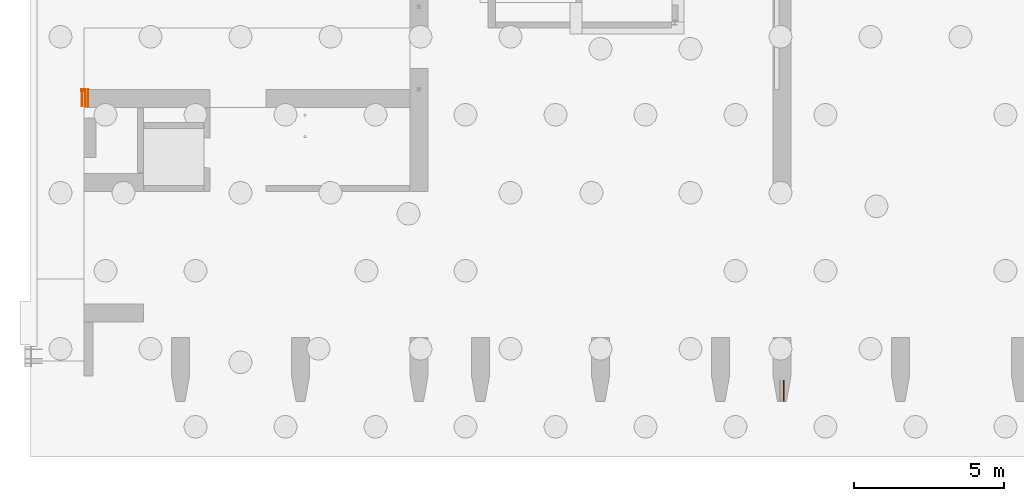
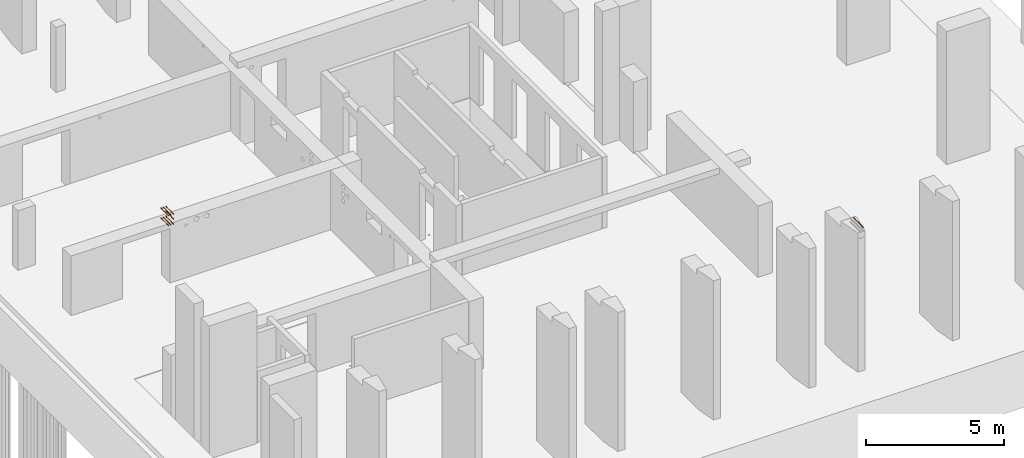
# One storey, part 23 of 26: 8 proxies.
"""IFC2X3 building model written with IfcOpenShell, lengths in millimetres."""

from ifc_helpers import new_model, entity, si_unit, converted_unit, derived_unit, direction, frame, frame_2d, origin, place, context, subcontext, project, spatial, circle, extrude, faceted_brep, source, transform, mapped, type_object, type_shapes, element, save


model = new_model("IFC2X3")

# Units and contexts
model_context = context("Model", 3, precision=0.01, world=origin(), true_north=direction((6.12303176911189e-17, 1.0)))
body_context = subcontext(model_context, "Body", "Model", "MODEL_VIEW")
ifc_project = project(units=[si_unit("LENGTHUNIT", "METRE", prefix="MILLI"), si_unit("AREAUNIT", "SQUARE_METRE"), si_unit("VOLUMEUNIT", "CUBIC_METRE"), converted_unit("PLANEANGLEUNIT", "DEGREE", entity("IfcRatioMeasure", 0.0174532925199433), si_unit("PLANEANGLEUNIT", "RADIAN"), dimensions=[0, 0, 0, 0, 0, 0, 0]), si_unit("MASSUNIT", "GRAM", prefix="KILO"), derived_unit("MASSDENSITYUNIT", [(si_unit("MASSUNIT", "GRAM", prefix="KILO"), 1), (si_unit("LENGTHUNIT", "METRE"), -3)]), si_unit("TIMEUNIT", "SECOND"), si_unit("FREQUENCYUNIT", "HERTZ"), si_unit("THERMODYNAMICTEMPERATUREUNIT", "DEGREE_CELSIUS"), derived_unit("THERMALTRANSMITTANCEUNIT", [(si_unit("MASSUNIT", "GRAM", prefix="KILO"), 1), (si_unit("THERMODYNAMICTEMPERATUREUNIT", "KELVIN"), -1), (si_unit("TIMEUNIT", "SECOND"), -3)]), derived_unit("VOLUMETRICFLOWRATEUNIT", [(si_unit("LENGTHUNIT", "METRE"), 3), (si_unit("TIMEUNIT", "SECOND"), -1)]), si_unit("ELECTRICCURRENTUNIT", "AMPERE"), si_unit("ELECTRICVOLTAGEUNIT", "VOLT"), si_unit("POWERUNIT", "WATT"), si_unit("FORCEUNIT", "NEWTON", prefix="KILO"), si_unit("ILLUMINANCEUNIT", "LUX"), si_unit("LUMINOUSFLUXUNIT", "LUMEN"), si_unit("LUMINOUSINTENSITYUNIT", "CANDELA"), derived_unit("USERDEFINED", [(si_unit("MASSUNIT", "GRAM", prefix="KILO"), -1), (si_unit("LENGTHUNIT", "METRE"), -2), (si_unit("TIMEUNIT", "SECOND"), 3), (si_unit("LUMINOUSFLUXUNIT", "LUMEN"), 1)]), derived_unit("LINEARVELOCITYUNIT", [(si_unit("LENGTHUNIT", "METRE"), 1), (si_unit("TIMEUNIT", "SECOND"), -1)]), si_unit("PRESSUREUNIT", "PASCAL"), derived_unit("USERDEFINED", [(si_unit("LENGTHUNIT", "METRE"), -2), (si_unit("MASSUNIT", "GRAM", prefix="KILO"), 1), (si_unit("TIMEUNIT", "SECOND"), -2)])], contexts=[model_context])

# Site, building, storey
site_placement = place(None, origin())
site = spatial("IfcSite", under=ifc_project, at=site_placement, Name="Default", CompositionType="ELEMENT")
building_placement = place(site_placement, origin())
building = spatial("IfcBuilding", under=site, at=building_placement, Name="niet gebruiken", CompositionType="ELEMENT")
storey_placement = place(building_placement, origin())
storey = spatial("IfcBuildingStorey", under=building, at=storey_placement, Name="00 begane grond", CompositionType="ELEMENT", Elevation=0.0)

# Proxies
building_element_proxy_type_1 = type_object("IfcBuildingElementProxyType", Name="Ø16/M20x560", PredefinedType="NOTDEFINED")
shared_shape_1 = source(origin(), body_context, "Body", "SolidModel", [
    extrude(circle(Radius=8.0, at=frame_2d((4.22994972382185e-15, -1.29243565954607e-14), x_axis=(1.0, 0.0))), frame((34.9769027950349, 0.0, -560.0)), (0.0, 0.0, 1.0), 489.0),
    extrude(circle(Radius=8.0, at=frame_2d((4.22994972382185e-15, -1.29243565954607e-14), x_axis=(1.0, 0.0))), frame((34.9769027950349, 0.0, -560.0)), (0.0, 0.0, 1.0), 489.0),
    faceted_brep([(30.380708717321, 11.0961940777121, 0.0), (32.6788057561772, 12.0480970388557, 0.0), (34.9769027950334, 13.0, 0.0), (34.9769027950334, 13.0, -33.0), (32.6788057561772, 12.0480970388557, -33.0), (30.380708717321, 11.0961940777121, -33.0), (28.0826116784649, 10.1442911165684, -33.0), (25.7845146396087, 9.1923881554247, -33.0), (25.7845146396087, 9.1923881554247, 0.0), (28.0826116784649, 10.1442911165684, 0.0), (47.0249998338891, 2.29809703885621, 0.0), (47.9769027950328, 0.0, 0.0), (47.9769027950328, 0.0, -33.0), (47.1698993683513, 1.94827861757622, -33.0), (46.0730968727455, 4.59619407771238, -33.0), (45.1211939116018, 6.89429111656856, -33.0), (44.1692909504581, 9.19238815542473, -33.0), (44.1692909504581, 9.19238815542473, 0.0), (45.1211939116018, 6.89429111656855, 0.0), (46.0730968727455, 4.59619407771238, 0.0), (23.5909096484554, 3.89655723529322, -33.0), (21.976902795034, 0.0, -33.0), (21.976902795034, 0.0, 0.0), (22.9288057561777, 2.29809703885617, 0.0), (23.8807087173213, 4.59619407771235, 0.0), (24.832611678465, 6.89429111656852, 0.0), (24.6877121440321, 6.54447269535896, -33.0), (39.5730968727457, 11.0961940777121, 0.0), (41.8711939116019, 10.1442911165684, 0.0), (41.8711939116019, 10.1442911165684, -33.0), (39.5730968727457, 11.0961940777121, -33.0), (37.2749998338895, 12.0480970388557, -33.0), (37.2749998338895, 12.0480970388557, 0.0), (46.3628959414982, -3.89655723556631, 0.0), (45.2660934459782, -6.54447269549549, 0.0), (44.1692909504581, -9.19238815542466, 0.0), (44.1692909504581, -9.19238815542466, -33.0), (45.1211939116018, -6.89429111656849, -33.0), (46.0730968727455, -4.59619407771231, -33.0), (47.0249998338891, -2.29809703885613, -33.0), (30.3807087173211, -11.0961940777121, 0.0), (28.0826116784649, -10.1442911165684, 0.0), (25.7845146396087, -9.19238815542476, 0.0), (25.7845146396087, -9.19238815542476, -33.0), (28.0826116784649, -10.1442911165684, -33.0), (30.3807087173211, -11.0961940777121, -33.0), (32.6788057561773, -12.0480970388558, -33.0), (34.9769027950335, -13.0, -33.0), (34.9769027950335, -13.0, 0.0), (32.6788057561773, -12.0480970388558, 0.0), (37.2749998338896, -12.0480970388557, -33.0), (39.5730968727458, -11.096194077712, -33.0), (41.871193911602, -10.1442911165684, -33.0), (41.871193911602, -10.1442911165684, 0.0), (39.5730968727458, -11.096194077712, 0.0), (37.2749998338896, -12.0480970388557, 0.0), (24.832611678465, -6.89429111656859, 0.0), (23.8807087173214, -4.59619407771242, 0.0), (22.9288057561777, -2.29809703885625, 0.0), (22.7839062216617, -1.94827861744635, -33.0), (23.8807087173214, -4.59619407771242, -33.0), (24.832611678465, -6.89429111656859, -33.0), (24.476902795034, 0.0, -38.0), (29.7269027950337, 9.09326673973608, -38.0), (40.2269027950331, 9.0932667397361, -38.0), (45.4769027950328, 0.0, -38.0), (40.2269027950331, -9.09326673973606, -38.0), (29.7269027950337, -9.09326673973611, -38.0), (29.7269027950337, 9.09326673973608, -71.0), (24.476902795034, 0.0, -71.0), (40.2269027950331, 9.0932667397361, -71.0), (45.4769027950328, 0.0, -71.0), (40.2269027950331, -9.09326673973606, -71.0), (29.7269027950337, -9.09326673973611, -71.0), (34.9769027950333, 0.0, -71.0), (34.9769027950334, 0.0, -33.0), (45.4769027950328, 0.0, -33.0), (40.2269027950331, 9.0932667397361, -33.0), (29.7269027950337, 9.09326673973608, -33.0), (24.476902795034, 0.0, -33.0), (40.2269027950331, -9.09326673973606, -33.0), (29.7269027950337, -9.09326673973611, -33.0), (29.7269027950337, 9.09326673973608, 0.0), (24.476902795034, 0.0, 0.0), (40.2269027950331, 9.0932667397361, 0.0), (45.4769027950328, 0.0, 0.0), (40.2269027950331, -9.09326673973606, 0.0), (29.7269027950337, -9.09326673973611, 0.0)], [[[0, 1, 2, 3, 4, 5, 6, 7, 8, 9]], [[10, 11, 12, 13, 14, 15, 16, 17, 18, 19]], [[20, 21, 22, 23, 24, 25, 8, 7, 26]], [[27, 28, 17, 16, 29, 30, 31, 3, 2, 32]], [[33, 34, 35, 36, 37, 38, 39, 12, 11]], [[40, 41, 42, 43, 44, 45, 46, 47, 48, 49]], [[48, 47, 50, 51, 52, 36, 35, 53, 54, 55]], [[43, 42, 56, 57, 58, 22, 21, 59, 60, 61]], [[62, 21, 20, 26, 7]], [[63, 62, 7]], [[63, 7, 6, 5, 4, 3]], [[64, 3, 31, 30, 29, 16]], [[16, 65, 64]], [[65, 16, 15, 14, 13, 12]], [[3, 64, 63]], [[65, 12, 39, 38, 37, 36]], [[66, 65, 36]], [[66, 36, 52, 51, 50, 47]], [[67, 47, 46, 45, 44, 43]], [[43, 62, 67]], [[62, 43, 61, 60, 59, 21]], [[47, 67, 66]], [[62, 63, 68, 69]], [[63, 64, 70, 68]], [[64, 65, 71, 70]], [[65, 66, 72, 71]], [[66, 67, 73, 72]], [[67, 62, 69, 73]], [[70, 71, 74]], [[74, 68, 70]], [[71, 72, 74]], [[73, 74, 72]], [[74, 73, 69]], [[74, 69, 68]], [[75, 76, 77]], [[77, 78, 75]], [[78, 79, 75]], [[75, 80, 76]], [[79, 81, 75]], [[80, 75, 81]], [[78, 82, 83, 79]], [[78, 77, 84, 82]], [[76, 85, 84, 77]], [[80, 86, 85, 76]], [[80, 81, 87, 86]], [[79, 83, 87, 81]], [[85, 11, 10]], [[85, 10, 19]], [[85, 19, 18]], [[85, 18, 17]], [[85, 17, 84]], [[85, 33, 11]], [[85, 34, 33]], [[85, 35, 34]], [[85, 86, 35]], [[86, 53, 35]], [[86, 54, 53]], [[86, 55, 54]], [[86, 48, 55]], [[48, 86, 87]], [[87, 49, 48]], [[87, 40, 49]], [[87, 41, 40]], [[87, 42, 41]], [[87, 83, 42]], [[83, 56, 42]], [[83, 57, 56]], [[83, 58, 57]], [[83, 22, 58]], [[83, 23, 22]], [[83, 24, 23]], [[83, 25, 24]], [[83, 8, 25]], [[83, 82, 8]], [[82, 84, 2]], [[82, 2, 1]], [[82, 1, 0]], [[82, 0, 9]], [[82, 9, 8]], [[84, 17, 28]], [[84, 28, 27]], [[84, 27, 32]], [[84, 32, 2]]]),
])
type_shapes(building_element_proxy_type_1, [shared_shape_1])
for number, where, z_axis, x_axis in (
    (1, (124704.976902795, 10550.0, 8390.0), (0.0, 1.0, 0.0), (-1.0, 0.0, 0.0)),
    (2, (124594.976902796, 10550.0, 8390.0), (0.0, 1.0, 0.0), (-1.0, 0.0, 0.0)),
    (3, (124494.976902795, 10550.0, 8390.0), (0.0, 1.0, 0.0), (-1.0, 0.0, 0.0)),
    (4, (124704.976902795, 10550.0, 8830.0), (0.0, 1.0, 0.0), (-1.0, 0.0, 0.0)),
    (5, (124594.976902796, 10550.0, 8830.0), (0.0, 1.0, 0.0), (-1.0, 0.0, 0.0)),
    (6, (124494.976902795, 10550.0, 8830.0), (0.0, 1.0, 0.0), (-1.0, 0.0, 0.0)),
    (7, (124704.976902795, 10550.0, 8610.0), (0.0, 1.0, 0.0), (-1.0, 0.0, 0.0)),
):
    element("IfcBuildingElementProxy", number, at=place(storey_placement, frame(where, z_axis=z_axis, x_axis=x_axis)), inside=storey, type_object=building_element_proxy_type_1, Name="GM_Stekanker_DEMU_4010 GV:Ø16/M20x560", ObjectType="Ø16/M20x560", context=body_context, shape_type="MappedRepresentation", body=[
        mapped(shared_shape_1, transform((0.0, 0.0, 0.0), scale=1.0)),
    ])
building_element_proxy_type_2 = type_object("IfcBuildingElementProxyType", Name="Ø20/M24x705", PredefinedType="NOTDEFINED")
shared_shape_2 = source(origin(), body_context, "Body", "SolidModel", [
    extrude(circle(Radius=10.0, at=frame_2d((0.0, -1.61554457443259e-14), x_axis=(1.0, 0.0))), frame((34.9769027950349, 0.0, -705.0)), (0.0, 0.0, 1.0), 615.0),
    extrude(circle(Radius=10.0, at=frame_2d((0.0, -1.61554457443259e-14), x_axis=(1.0, 0.0))), frame((34.9769027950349, 0.0, -705.0)), (0.0, 0.0, 1.0), 615.0),
    faceted_brep([(29.3200485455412, 13.6568542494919, 0.0), (32.1484756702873, 14.8284271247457, 0.0), (34.9769027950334, 16.0, 0.0), (34.9769027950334, 16.0, -38.0), (32.1484756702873, 14.8284271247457, -38.0), (29.3200485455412, 13.6568542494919, -38.0), (26.4916214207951, 12.4852813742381, -38.0), (23.663194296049, 11.3137084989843, -38.0), (23.663194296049, 11.3137084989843, 0.0), (26.4916214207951, 12.4852813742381, 0.0), (49.805329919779, 2.82842712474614, 0.0), (50.9769027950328, 0.0, 0.0), (50.9769027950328, 0.0, -38.0), (50.0199937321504, 2.31018283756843, -38.0), (49.7680552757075, 2.91841607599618, -38.0), (48.6337570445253, 5.65685424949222, -38.0), (48.5592077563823, 5.83683215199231, -38.0), (47.4621841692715, 8.48528137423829, -38.0), (46.2906112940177, 11.3137084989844, -38.0), (46.2906112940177, 11.3137084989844, 0.0), (47.4621841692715, 8.48528137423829, 0.0), (48.6337570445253, 5.65685424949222, 0.0), (21.3200485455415, 5.65685424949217, 0.0), (22.4916214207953, 8.48528137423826, 0.0), (22.4916214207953, 8.48528137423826, -38.0), (22.2769576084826, 7.96703708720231, -38.0), (21.3200485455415, 5.65685424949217, -38.0), (20.8907209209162, 4.62036567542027, -38.0), (20.1484756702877, 2.82842712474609, -38.0), (18.976902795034, 0.0, -38.0), (18.976902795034, 0.0, 0.0), (20.1484756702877, 2.82842712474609, 0.0), (40.6337570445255, 13.6568542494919, 0.0), (43.4621841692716, 12.4852813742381, 0.0), (43.4621841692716, 12.4852813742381, -38.0), (40.6337570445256, 13.6568542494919, -38.0), (37.8053299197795, 14.8284271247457, -38.0), (37.8053299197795, 14.8284271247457, 0.0), (49.063084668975, -4.62036567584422, 0.0), (47.6768479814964, -7.96703708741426, 0.0), (46.2906112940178, -11.3137084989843, 0.0), (46.2906112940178, -11.3137084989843, -38.0), (47.4621841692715, -8.48528137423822, -38.0), (48.6337570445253, -5.65685424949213, -38.0), (49.8053299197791, -2.82842712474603, -38.0), (29.3200485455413, -13.6568542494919, 0.0), (26.4916214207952, -12.4852813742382, 0.0), (23.6631942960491, -11.3137084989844, 0.0), (23.6631942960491, -11.3137084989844, -38.0), (26.4916214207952, -12.4852813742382, -38.0), (29.3200485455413, -13.6568542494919, -38.0), (32.1484756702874, -14.8284271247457, -38.0), (34.9769027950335, -16.0, -38.0), (34.9769027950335, -16.0, 0.0), (32.1484756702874, -14.8284271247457, 0.0), (37.8053299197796, -14.8284271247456, -38.0), (40.6337570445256, -13.6568542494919, -38.0), (43.4621841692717, -12.4852813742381, -38.0), (43.4621841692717, -12.4852813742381, 0.0), (40.6337570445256, -13.6568542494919, 0.0), (37.8053299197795, -14.8284271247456, 0.0), (22.4916214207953, -8.48528137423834, 0.0), (21.3200485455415, -5.65685424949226, 0.0), (20.1484756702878, -2.82842712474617, 0.0), (19.9338118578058, -2.31018283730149, -38.0), (20.1857498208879, -2.91841488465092, -38.0), (21.3200485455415, -5.65685424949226, -38.0), (22.4916214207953, -8.48528137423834, -38.0), (25.7845146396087, 9.19238815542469, -52.0), (24.8628969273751, 6.96740617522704, -52.0), (23.9412792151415, 4.7424241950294, -52.0), (22.9590910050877, 2.3712120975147, -52.0), (21.976902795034, 0.0, -52.0), (44.1692909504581, 9.19238815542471, -52.0), (47.9769027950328, 0.0, -52.0), (46.994714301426, 2.37121278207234, -52.0), (46.0730968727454, 4.59619407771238, -52.0), (45.1211939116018, 6.89429111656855, -52.0), (34.9769027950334, 13.0, -52.0), (32.6788057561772, 12.0480970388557, -52.0), (30.380708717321, 11.096194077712, -52.0), (28.0826116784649, 10.1442911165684, -52.0), (37.2749998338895, 12.0480970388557, -52.0), (41.8711939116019, 10.1442911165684, -52.0), (39.5730968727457, 11.0961940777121, -52.0), (44.1692909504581, -9.19238815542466, -52.0), (45.0909086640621, -6.96740617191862, -52.0), (45.3722781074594, -6.28812024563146, -52.0), (46.0125263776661, -4.74242418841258, -52.0), (46.5752652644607, -3.38385233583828, -52.0), (46.9947145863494, -2.37121209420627, -52.0), (28.0826116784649, -10.1442911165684, -52.0), (30.3807087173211, -11.0961940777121, -52.0), (32.6788057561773, -12.0480970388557, -52.0), (34.9769027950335, -13.0, -52.0), (25.7845146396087, -9.19238815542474, -52.0), (37.2749998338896, -12.0480970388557, -52.0), (39.5730968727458, -11.096194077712, -52.0), (41.871193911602, -10.1442911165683, -52.0), (22.9288057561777, -2.29809703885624, -52.0), (23.8807087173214, -4.59619407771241, -52.0), (24.8326116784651, -6.89429111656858, -52.0), (32.6788057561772, 12.0480970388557, -90.0), (30.380708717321, 11.096194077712, -90.0), (28.0826116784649, 10.1442911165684, -90.0), (25.7845146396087, 9.19238815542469, -90.0), (34.9769027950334, 13.0, -90.0), (47.9769027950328, 0.0, -90.0), (47.2760840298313, 1.691926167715, -90.0), (46.0730968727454, 4.59619407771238, -90.0), (45.1211939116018, 6.89429111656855, -90.0), (44.1692909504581, 9.19238815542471, -90.0), (23.3785403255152, 3.38385233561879, -90.0), (21.976902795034, 0.0, -90.0), (24.5815274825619, 6.28812024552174, -90.0), (41.8711939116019, 10.1442911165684, -90.0), (39.5730968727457, 11.0961940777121, -90.0), (37.2749998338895, 12.0480970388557, -90.0), (46.0730968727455, -4.5961940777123, -90.0), (47.0249998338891, -2.29809703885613, -90.0), (44.1692909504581, -9.19238815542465, -90.0), (45.1211939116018, -6.89429111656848, -90.0), (25.7845146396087, -9.19238815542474, -90.0), (28.0826116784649, -10.1442911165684, -90.0), (30.3807087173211, -11.0961940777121, -90.0), (32.6788057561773, -12.0480970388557, -90.0), (34.9769027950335, -13.0, -90.0), (37.2749998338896, -12.0480970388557, -90.0), (39.5730968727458, -11.096194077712, -90.0), (41.871193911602, -10.1442911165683, -90.0), (22.6777215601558, -1.6919261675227, -90.0), (23.8807087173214, -4.59619407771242, -90.0), (24.8326116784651, -6.89429111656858, -90.0), (34.9769027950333, 0.0, -90.0), (34.9769027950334, 0.0, -38.0), (47.9769027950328, 0.0, -38.0), (47.2760840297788, 1.69192616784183, -38.0), (46.0730968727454, 4.59619407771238, -38.0), (45.1211939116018, 6.89429111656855, -38.0), (44.1692909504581, 9.19238815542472, -38.0), (41.8711939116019, 10.1442911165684, -38.0), (39.5730968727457, 11.0961940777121, -38.0), (37.2749998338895, 12.0480970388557, -38.0), (34.9769027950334, 13.0, -38.0), (32.6788057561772, 12.0480970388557, -38.0), (30.380708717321, 11.096194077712, -38.0), (28.0826116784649, 10.1442911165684, -38.0), (25.7845146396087, 9.19238815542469, -38.0), (24.5815274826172, 6.28812024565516, -38.0), (23.3785403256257, 3.38385233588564, -38.0), (21.976902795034, 0.0, -38.0), (22.6777215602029, -1.69192616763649, -38.0), (47.0249998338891, -2.29809703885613, -38.0), (46.0730968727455, -4.59619407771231, -38.0), (45.1211939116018, -6.89429111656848, -38.0), (44.1692909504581, -9.19238815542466, -38.0), (41.871193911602, -10.1442911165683, -38.0), (39.5730968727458, -11.096194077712, -38.0), (37.2749998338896, -12.0480970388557, -38.0), (34.9769027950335, -13.0, -38.0), (23.8807087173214, -4.59619407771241, -38.0), (24.8326116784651, -6.89429111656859, -38.0), (25.7845146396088, -9.19238815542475, -38.0), (28.0826116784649, -10.1442911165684, -38.0), (30.3807087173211, -11.0961940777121, -38.0), (32.6788057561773, -12.0480970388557, -38.0), (32.6788057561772, 12.0480970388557, 0.0), (30.380708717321, 11.096194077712, 0.0), (28.0826116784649, 10.1442911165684, 0.0), (25.7845146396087, 9.19238815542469, 0.0), (34.9769027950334, 13.0, 0.0), (47.9769027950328, 0.0, 0.0), (47.0249998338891, 2.29809703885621, 0.0), (46.0730968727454, 4.59619407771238, 0.0), (45.1211939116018, 6.89429111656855, 0.0), (44.1692909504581, 9.19238815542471, 0.0), (24.832611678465, 6.89429111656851, 0.0), (23.8807087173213, 4.59619407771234, 0.0), (22.9288057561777, 2.29809703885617, 0.0), (21.976902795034, 0.0, 0.0), (37.2749998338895, 12.0480970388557, 0.0), (41.8711939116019, 10.1442911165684, 0.0), (39.5730968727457, 11.0961940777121, 0.0), (44.1692909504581, -9.19238815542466, 0.0), (45.3722781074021, -6.28812024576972, 0.0), (46.5752652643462, -3.38385233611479, 0.0), (32.6788057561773, -12.0480970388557, 0.0), (34.9769027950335, -13.0, 0.0), (25.7845146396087, -9.19238815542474, 0.0), (28.0826116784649, -10.1442911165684, 0.0), (30.3807087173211, -11.0961940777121, 0.0), (37.2749998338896, -12.0480970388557, 0.0), (39.5730968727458, -11.096194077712, 0.0), (41.871193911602, -10.1442911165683, 0.0), (22.9288057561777, -2.29809703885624, 0.0), (23.8807087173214, -4.59619407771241, 0.0), (24.8326116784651, -6.89429111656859, 0.0)], [[[0, 1, 2, 3, 4, 5, 6, 7, 8, 9]], [[10, 11, 12, 13, 14, 15, 16, 17, 18, 19, 20, 21]], [[22, 23, 8, 7, 24, 25, 26, 27, 28, 29, 30, 31]], [[32, 33, 19, 18, 34, 35, 36, 3, 2, 37]], [[38, 39, 40, 41, 42, 43, 44, 12, 11]], [[45, 46, 47, 48, 49, 50, 51, 52, 53, 54]], [[53, 52, 55, 56, 57, 41, 40, 58, 59, 60]], [[48, 47, 61, 62, 63, 30, 29, 64, 65, 66, 67]], [[7, 68, 69, 70, 71, 72, 29, 28, 27, 26, 25, 24]], [[73, 18, 17, 16, 15, 14, 13, 12, 74, 75, 76, 77]], [[4, 3, 78, 79, 80, 81, 68, 7, 6, 5]], [[82, 78, 3, 36, 35, 34, 18, 73, 83, 84]], [[41, 85, 86, 87, 88, 89, 90, 74, 12, 44, 43, 42]], [[91, 92, 93, 94, 52, 51, 50, 49, 48, 95]], [[55, 52, 94, 96, 97, 98, 85, 41, 57, 56]], [[99, 100, 101, 95, 48, 67, 66, 65, 64, 29, 72]], [[102, 103, 104, 105, 68, 81, 80, 79, 78, 106]], [[75, 74, 107, 108, 109, 110, 111, 73, 77, 76]], [[112, 113, 72, 71, 70, 69, 68, 105, 114]], [[84, 83, 73, 111, 115, 116, 117, 106, 78, 82]], [[118, 119, 107, 74, 90, 89, 88, 87, 86, 85, 120, 121]], [[92, 91, 95, 122, 123, 124, 125, 126, 94, 93]], [[94, 126, 127, 128, 129, 120, 85, 98, 97, 96]], [[122, 95, 101, 100, 99, 72, 113, 130, 131, 132]], [[133, 111, 110]], [[133, 110, 109]], [[133, 109, 108]], [[133, 108, 107]], [[133, 107, 119]], [[133, 115, 111]], [[133, 116, 115]], [[133, 117, 116]], [[133, 106, 117]], [[133, 102, 106]], [[133, 103, 102]], [[133, 104, 103]], [[133, 105, 104]], [[133, 114, 105]], [[133, 112, 114]], [[133, 113, 112]], [[133, 119, 118]], [[133, 118, 121]], [[133, 121, 120]], [[133, 120, 129]], [[133, 129, 128]], [[133, 128, 127]], [[133, 127, 126]], [[133, 126, 125]], [[133, 130, 113]], [[133, 131, 130]], [[133, 132, 131]], [[133, 122, 132]], [[133, 125, 124]], [[133, 124, 123]], [[133, 123, 122]], [[134, 135, 136]], [[134, 136, 137]], [[134, 137, 138]], [[134, 138, 139]], [[134, 139, 140]], [[134, 140, 141]], [[134, 141, 142]], [[134, 142, 143]], [[134, 143, 144]], [[134, 144, 145]], [[134, 145, 146]], [[134, 146, 147]], [[134, 147, 148]], [[134, 148, 149]], [[134, 149, 150]], [[134, 150, 151]], [[134, 152, 135]], [[134, 153, 152]], [[134, 154, 153]], [[134, 155, 154]], [[134, 156, 155]], [[134, 157, 156]], [[134, 158, 157]], [[134, 159, 158]], [[134, 151, 160]], [[134, 160, 161]], [[134, 161, 162]], [[134, 162, 163]], [[134, 163, 164]], [[134, 164, 165]], [[134, 165, 159]], [[166, 167, 168, 169, 147, 146, 145, 144, 143, 170]], [[136, 135, 171, 172, 173, 174, 175, 139, 138, 137]], [[148, 147, 169, 176, 177, 178, 179, 150, 149]], [[180, 170, 143, 142, 141, 140, 139, 175, 181, 182]], [[153, 154, 155, 183, 184, 185, 171, 135, 152]], [[186, 187, 159, 165, 164, 163, 162, 188, 189, 190]], [[158, 159, 187, 191, 192, 193, 183, 155, 156, 157]], [[161, 160, 151, 150, 179, 194, 195, 196, 188, 162]], [[171, 11, 10]], [[171, 10, 21]], [[171, 21, 20]], [[171, 20, 19]], [[19, 172, 171]], [[171, 38, 11]], [[171, 39, 38]], [[171, 40, 39]], [[40, 171, 185]], [[40, 185, 184]], [[40, 184, 183]], [[183, 58, 40]], [[183, 59, 58]], [[183, 60, 59]], [[183, 53, 60]], [[53, 183, 193]], [[53, 193, 192]], [[53, 192, 191]], [[53, 191, 187]], [[53, 187, 186]], [[53, 186, 190]], [[53, 190, 189]], [[53, 189, 188]], [[188, 54, 53]], [[188, 45, 54]], [[188, 46, 45]], [[188, 47, 46]], [[47, 188, 196]], [[47, 196, 195]], [[47, 195, 194]], [[47, 194, 179]], [[179, 61, 47]], [[179, 62, 61]], [[179, 63, 62]], [[179, 30, 63]], [[179, 31, 30]], [[179, 22, 31]], [[179, 23, 22]], [[179, 8, 23]], [[8, 179, 178]], [[8, 178, 177]], [[8, 177, 176]], [[8, 176, 169]], [[169, 9, 8]], [[169, 0, 9]], [[169, 1, 0]], [[169, 2, 1]], [[2, 169, 168]], [[2, 168, 167]], [[2, 167, 166]], [[2, 166, 170]], [[2, 170, 180]], [[2, 180, 182]], [[2, 182, 181]], [[2, 181, 175]], [[175, 19, 33]], [[19, 175, 174]], [[175, 33, 32]], [[175, 32, 37]], [[175, 37, 2]], [[19, 174, 173]], [[19, 173, 172]]]),
])
type_shapes(building_element_proxy_type_2, [shared_shape_2])
proxy_placement = place(storey_placement, frame((147825.023097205, 150.0, 6095.0), z_axis=(0.0, -1.0, 0.0), x_axis=(1.0, 0.0, 0.0)))
element("IfcBuildingElementProxy", 8, at=proxy_placement, inside=storey, type_object=building_element_proxy_type_2, Name="GM_Stekanker_DEMU_4010 GV:Ø20/M24x705", ObjectType="Ø20/M24x705", context=body_context, shape_type="MappedRepresentation", body=[
    mapped(shared_shape_2, transform((0.0, 0.0, 0.0), scale=1.0)),
])

save(model, "model.ifc")
